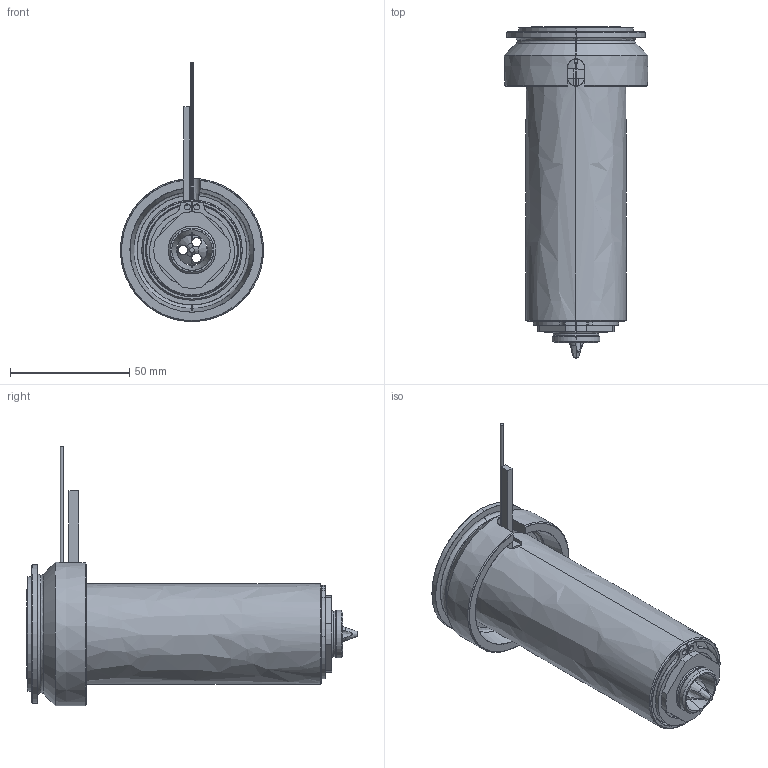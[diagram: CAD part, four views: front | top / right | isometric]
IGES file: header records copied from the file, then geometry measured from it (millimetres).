
Start section: SolidWorks IGES file using analytic representation for surfaces
Global section: file name: C:\Documents and Settings\ws-20\Desktop\TEM\UGEP6005-M-A-1 [Øf-1.9 ØC-16].IGS; native system: SolidWorks 2012; preprocessor: SolidWorks 2012; author: ws-20; date: 120427.094043; units: millimetre
Bounding box: 60 x 139.05 x 108.65 mm (x, y, z)
Surface area: 71833.1 mm2 (no closed solid volume)
Topology: 0 solids, 0 shells, 129 faces, 2329 edges, 2329 vertices
Faces by surface type: revolution 81, bspline 48
